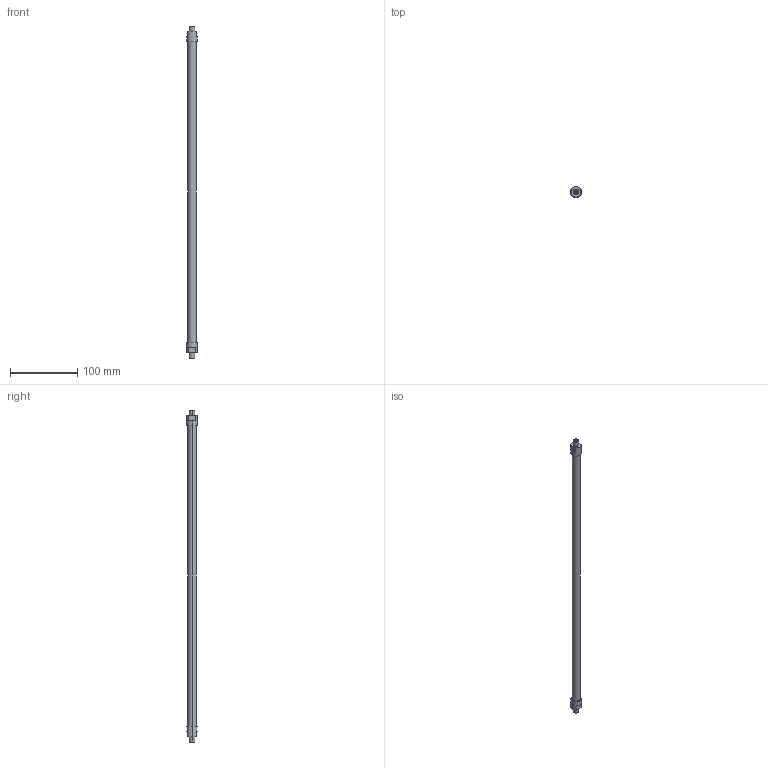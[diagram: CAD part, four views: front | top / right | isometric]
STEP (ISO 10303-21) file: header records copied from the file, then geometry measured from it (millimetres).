
FILE_DESCRIPTION(('STEP AP214'),'1');
FILE_NAME('ETT-R025G485.stp','2015-02-03T08:47:57',(' '),(' '),'Spatial InterOp 3D',' ',' ');
FILE_SCHEMA(('automotive_design'));
Length unit declared in the file: metre
Products named in the file (2): 1; 2
Bounding box: 16 x 16 x 492 mm (x, y, z)
Volume: 56602.8 mm3; surface area: 19654.3 mm2
Topology: 1 solids, 4 shells, 33 faces, 78 edges, 56 vertices
Faces by surface type: plane 17, cylinder 16
Entity records: 1292 total; most frequent: DIRECTION 192, CARTESIAN_POINT 169, ORIENTED_EDGE 144, AXIS2_PLACEMENT_3D 79, EDGE_CURVE 78, VERTEX_POINT 56, CIRCLE 44, EDGE_LOOP 40
